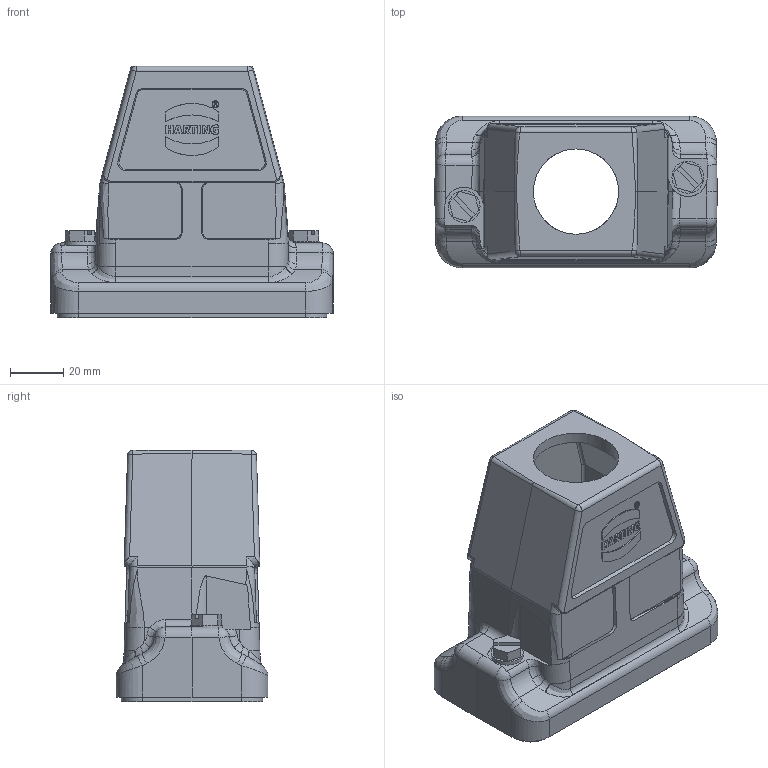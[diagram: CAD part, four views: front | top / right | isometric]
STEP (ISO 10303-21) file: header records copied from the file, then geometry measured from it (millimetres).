
FILE_DESCRIPTION(/* description */ (''),/* implementation_level */ '2;1');
FILE_NAME(/* name */ '100698456ugm000_e.stp',/* time_stamp */ '2022-10-18T12:57:59+02:00',/* author */ (''),/* organization */ (''),/* preprocessor_version */ 'ST-DEVELOPER v16.7',/* originating_system */ 'SIEMENS PLM Software NX 1911',/* authorisation */ '');
FILE_SCHEMA (('AUTOMOTIVE_DESIGN { 1 0 10303 214 3 1 1 1 }'));
Length unit declared in the file: millimetre
Products named in the file (1): 100698456ugm000_e
Bounding box: 106 x 57 x 94.4 mm (x, y, z)
Volume: 99429.1 mm3; surface area: 51903.4 mm2
Topology: 1 solids, 1 shells, 865 faces, 2278 edges, 1462 vertices
Faces by surface type: plane 418, bspline 225, cylinder 163, cone 38, sphere 14, torus 7
Full cylindrical faces by diameter (mm): 3 x4, 6 x2, 12 x2, 32 x1
Entity records: 38146 total; most frequent: CARTESIAN_POINT 16613, ORIENTED_EDGE 4434, DIRECTION 3357, EDGE_CURVE 2217, VERTEX_POINT 1439, LINE 1195, VECTOR 1195, AXIS2_PLACEMENT_3D 1081
